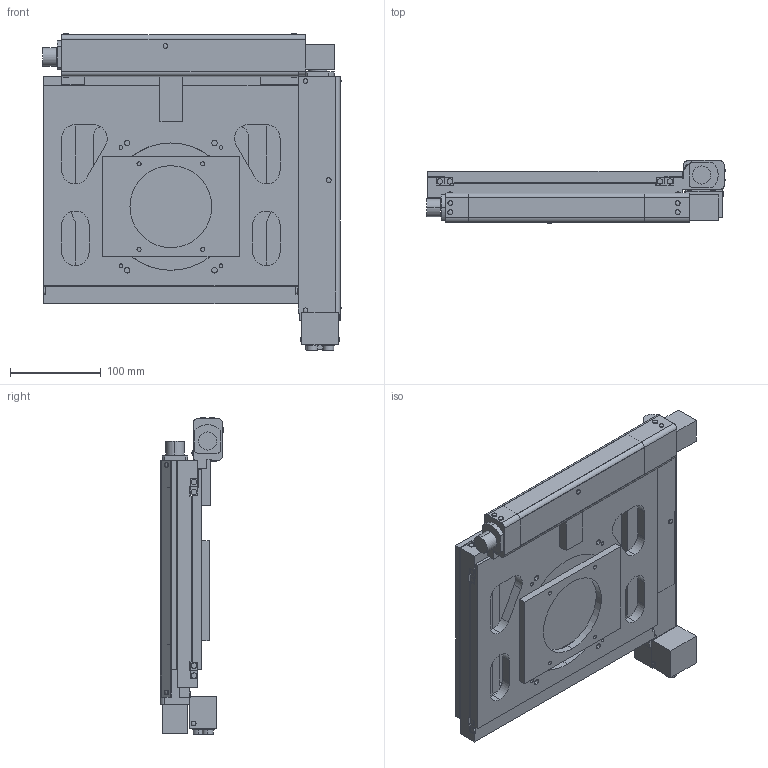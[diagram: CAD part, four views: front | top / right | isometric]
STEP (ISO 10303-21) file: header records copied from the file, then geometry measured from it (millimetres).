
FILE_DESCRIPTION (( 'STEP AP203' ), '1' );
FILE_NAME ('MSS-150C-NA.STEP', '2013-03-14T07:31:55', ( '' ), ( '' ), 'SwSTEP 2.0', 'SolidWorks 2011', '' );
FILE_SCHEMA (( 'CONFIG_CONTROL_DESIGN' ));
Length unit declared in the file: millimetre
Products named in the file (5): MSS-150C-NA; MSS-150C-NA-4; MSS-150C-NA-3; MSS-150C-NA-2; MSS-150C-NA-1
Assembly tree (4 placements, depth 2):
  MSS-150C-NA
    MSS-150C-NA-1
    MSS-150C-NA-4
    MSS-150C-NA-3
    MSS-150C-NA-2
Bounding box: 328.44 x 69.44 x 348.74 mm (x, y, z)
Volume: 1840313.4 mm3; surface area: 558105.8 mm2
Topology: 4 solids, 8 shells, 527 faces, 1317 edges, 868 vertices
Faces by surface type: plane 286, cylinder 220, bspline 21
Entity records: 20522 total; most frequent: CARTESIAN_POINT 7036, DIRECTION 2711, ORIENTED_EDGE 2634, EDGE_CURVE 1317, AXIS2_PLACEMENT_3D 927, VERTEX_POINT 868, VECTOR 857, LINE 857
